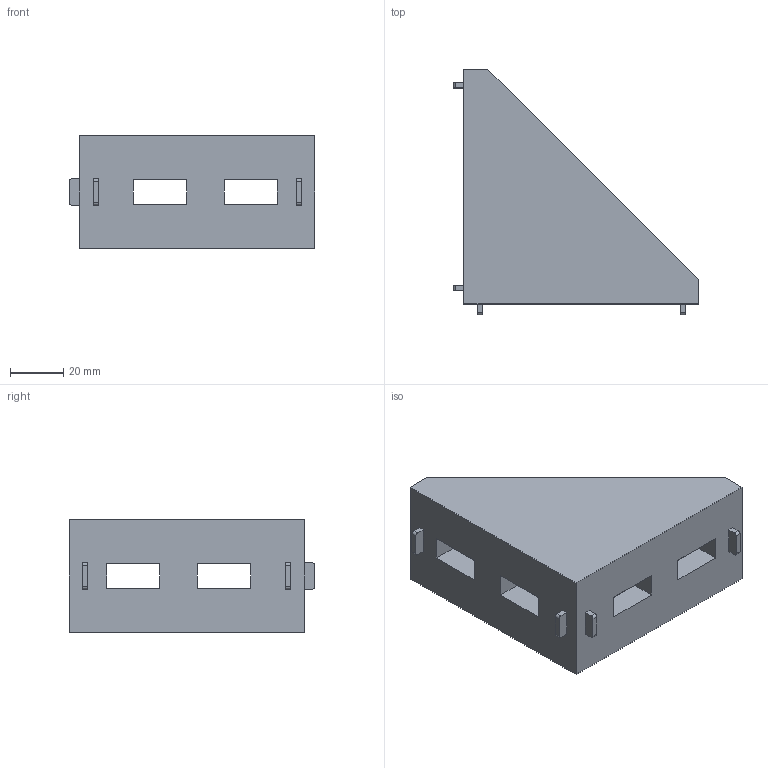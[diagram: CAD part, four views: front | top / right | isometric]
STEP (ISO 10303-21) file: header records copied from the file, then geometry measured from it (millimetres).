
FILE_DESCRIPTION((''),'2;1');
FILE_NAME('E:\catalogue and flyer\Profile catalogue 2015\Accessories JE info\Accessories-JE step file 31MAr16\JE-GE4288-10.stp','2016-03-31T15:37:58',('h029'),(''),'Autodesk Inventor 11','Autodesk Inventor 11','');
FILE_SCHEMA(('AUTOMOTIVE_DESIGN { 1 0 10303 214 1 1 1 1 }'));
Length unit declared in the file: millimetre
Products named in the file (1): JE-GE4288-10
Bounding box: 92 x 92 x 42 mm (x, y, z)
Volume: 75685.6 mm3; surface area: 24775 mm2
Topology: 1 solids, 1 shells, 54 faces, 142 edges, 94 vertices
Faces by surface type: plane 46, cylinder 8
Entity records: 1685 total; most frequent: CARTESIAN_POINT 291, ORIENTED_EDGE 284, DIRECTION 268, EDGE_CURVE 142, VECTOR 126, LINE 126, VERTEX_POINT 94, AXIS2_PLACEMENT_3D 71
